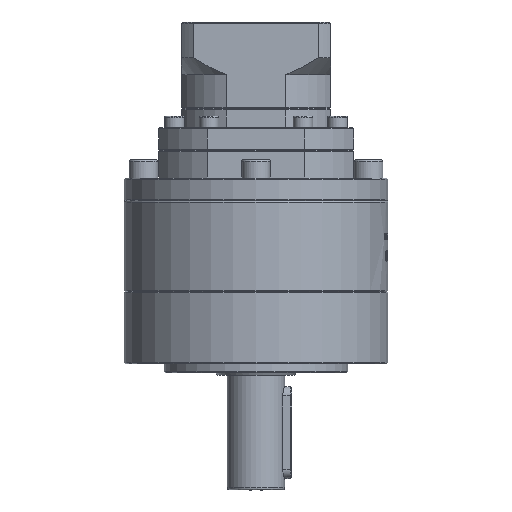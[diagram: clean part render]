
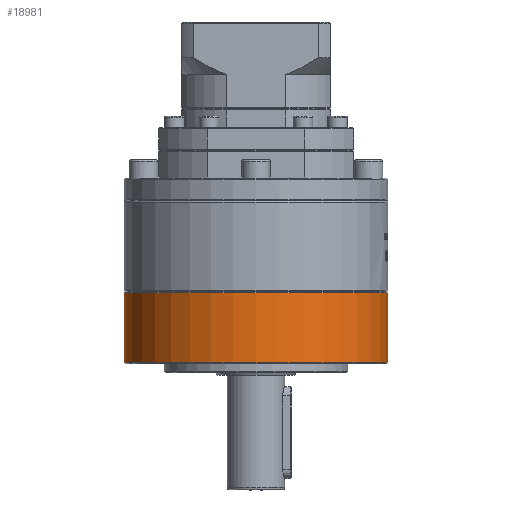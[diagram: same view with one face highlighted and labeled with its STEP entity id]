
A CAD part, front view. The second image highlights one B-rep face of the part: STEP entity #18981.
In plain terms, the highlighted cylindrical face has radius 57.5 mm (diameter 115 mm), a partial arc.
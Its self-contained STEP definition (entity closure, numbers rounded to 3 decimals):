
#2735 = EDGE_CURVE ( 'NONE', #22456, #7236, #104339, .T. ) ;
#7236 = VERTEX_POINT ( 'NONE', #123547 ) ;
#7249 = EDGE_CURVE ( 'NONE', #7236, #95195, #122549, .T. ) ;
#14733 = CARTESIAN_POINT ( 'NONE',  ( 45.743, 6.977, -34.15 ) ) ;
#16237 = VERTEX_POINT ( 'NONE', #26073 ) ;
#18981 = ADVANCED_FACE ( 'NONE', ( #106020 ), #41147, .T. ) ;
#22456 = VERTEX_POINT ( 'NONE', #53773 ) ;
#22500 = EDGE_CURVE ( 'NONE', #16237, #95195, #70098, .T. ) ;
#24721 = DIRECTION ( 'NONE',  ( -1., 0., 0. ) ) ;
#24993 = DIRECTION ( 'NONE',  ( 0., 0., 1. ) ) ;
#26073 = CARTESIAN_POINT ( 'NONE',  ( -11.757, 6.977, -34.15 ) ) ;
#28533 = EDGE_CURVE ( 'NONE', #22456, #16237, #105777, .T. ) ;
#40365 = DIRECTION ( 'NONE',  ( 0., 0., 1. ) ) ;
#40814 = AXIS2_PLACEMENT_3D ( 'NONE', #14733, #83923, #24721 ) ;
#41147 = CYLINDRICAL_SURFACE ( 'NONE', #64524, 57.5 ) ;
#42883 = CARTESIAN_POINT ( 'NONE',  ( 45.743, 6.977, -52.15 ) ) ;
#43310 = DIRECTION ( 'NONE',  ( 1., 0., 0. ) ) ;
#53329 = VECTOR ( 'NONE', #126302, 1000. ) ;
#53773 = CARTESIAN_POINT ( 'NONE',  ( -11.757, 6.977, -64.65 ) ) ;
#64524 = AXIS2_PLACEMENT_3D ( 'NONE', #42883, #111467, #43310 ) ;
#70098 = CIRCLE ( 'NONE', #40814, 57.5 ) ;
#75401 = EDGE_LOOP ( 'NONE', ( #117623, #84259, #77821, #127066 ) ) ;
#77821 = ORIENTED_EDGE ( 'NONE', *, *, #7249, .T. ) ;
#80342 = CARTESIAN_POINT ( 'NONE',  ( 103.243, 6.977, -34.15 ) ) ;
#83923 = DIRECTION ( 'NONE',  ( 0., 0., 1. ) ) ;
#84259 = ORIENTED_EDGE ( 'NONE', *, *, #2735, .T. ) ;
#91916 = AXIS2_PLACEMENT_3D ( 'NONE', #99496, #40365, #109413 ) ;
#94122 = CARTESIAN_POINT ( 'NONE',  ( 103.243, 6.977, -52.15 ) ) ;
#95195 = VERTEX_POINT ( 'NONE', #80342 ) ;
#99496 = CARTESIAN_POINT ( 'NONE',  ( 45.743, 6.977, -64.65 ) ) ;
#104339 = CIRCLE ( 'NONE', #91916, 57.5 ) ;
#105499 = CARTESIAN_POINT ( 'NONE',  ( -11.757, 6.977, -52.15 ) ) ;
#105777 = LINE ( 'NONE', #105499, #53329 ) ;
#106020 = FACE_OUTER_BOUND ( 'NONE', #75401, .T. ) ;
#109413 = DIRECTION ( 'NONE',  ( 1., 0., 0. ) ) ;
#111467 = DIRECTION ( 'NONE',  ( 0., 0., 1. ) ) ;
#117623 = ORIENTED_EDGE ( 'NONE', *, *, #28533, .F. ) ;
#119399 = VECTOR ( 'NONE', #24993, 1000. ) ;
#122549 = LINE ( 'NONE', #94122, #119399 ) ;
#123547 = CARTESIAN_POINT ( 'NONE',  ( 103.243, 6.977, -64.65 ) ) ;
#126302 = DIRECTION ( 'NONE',  ( 0., 0., 1. ) ) ;
#127066 = ORIENTED_EDGE ( 'NONE', *, *, #22500, .F. ) ;
